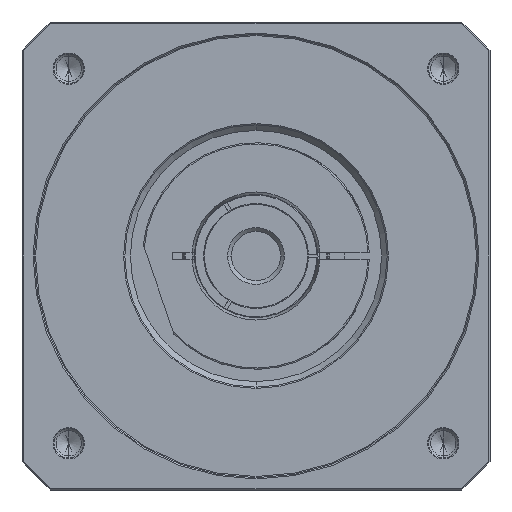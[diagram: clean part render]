
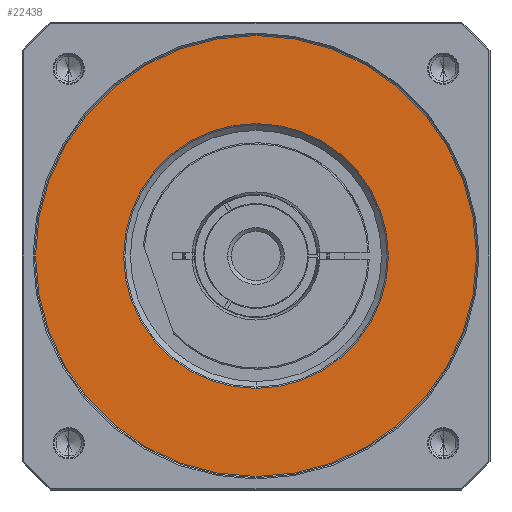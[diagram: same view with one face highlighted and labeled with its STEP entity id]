
A CAD part, left-side view. The second image highlights one B-rep face of the part: STEP entity #22438.
In plain terms, the highlighted planar face has unit normal (-1, 0, 0) as drawn and (0, 0, 1) by its records, which use the part's own axes.
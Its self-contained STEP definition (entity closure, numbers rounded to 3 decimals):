
#21123=CARTESIAN_POINT('',(0.,0.,36.));
#21124=DIRECTION('',(0.,0.,-1.));
#21125=DIRECTION('',(0.,-1.,0.));
#21126=AXIS2_PLACEMENT_3D('',#21123,#21124,#21125);
#21128=CARTESIAN_POINT('',(0.,0.,36.));
#21129=DIRECTION('',(0.,0.,-1.));
#21130=DIRECTION('',(0.,1.,0.));
#21131=AXIS2_PLACEMENT_3D('',#21128,#21129,#21130);
#21133=CARTESIAN_POINT('',(0.,0.,
36.));
#21134=DIRECTION('',(0.,0.,-1.));
#21135=DIRECTION('',(1.,0.,0.));
#21136=AXIS2_PLACEMENT_3D('',#21133,#21134,#21135);
#21138=CARTESIAN_POINT('',(0.,0.,36.));
#21139=DIRECTION('',(0.,0.,-1.));
#21140=DIRECTION('',(-1.,0.,0.));
#21141=AXIS2_PLACEMENT_3D('',#21138,#21139,#21140);
#21722=CARTESIAN_POINT('',(0.,-89.5,36.));
#21723=CARTESIAN_POINT('',(0.,89.5,36.));
#21724=VERTEX_POINT('',#21722);
#21725=VERTEX_POINT('',#21723);
#21758=CARTESIAN_POINT('',(53.75,0.,36.));
#21759=CARTESIAN_POINT('',(-53.75,0.,
36.));
#21760=VERTEX_POINT('',#21758);
#21761=VERTEX_POINT('',#21759);
#22422=CARTESIAN_POINT('',(0.,0.,36.));
#22423=DIRECTION('',(0.,0.,-1.));
#22424=DIRECTION('',(0.,-1.,0.));
#22425=AXIS2_PLACEMENT_3D('',#22422,#22423,#22424);
#22426=PLANE('',#22425);
#22428=ORIENTED_EDGE('',*,*,#22427,.T.);
#22429=ORIENTED_EDGE('',*,*,#22412,.T.);
#22430=EDGE_LOOP('',(#22428,#22429));
#22431=FACE_OUTER_BOUND('',#22430,.F.);
#22433=ORIENTED_EDGE('',*,*,#22432,.F.);
#22435=ORIENTED_EDGE('',*,*,#22434,.F.);
#22436=EDGE_LOOP('',(#22433,#22435));
#22437=FACE_BOUND('',#22436,.F.);
#22438=ADVANCED_FACE('',(#22431,#22437),#22426,.F.);
#21127=CIRCLE('',#21126,89.5);
#21132=CIRCLE('',#21131,89.5);
#21137=CIRCLE('',#21136,53.75);
#21142=CIRCLE('',#21141,53.75);
#22412=EDGE_CURVE('',#21725,#21724,#21132,.T.);
#22427=EDGE_CURVE('',#21724,#21725,#21127,.T.);
#22432=EDGE_CURVE('',#21760,#21761,#21137,.T.);
#22434=EDGE_CURVE('',#21761,#21760,#21142,.T.);
